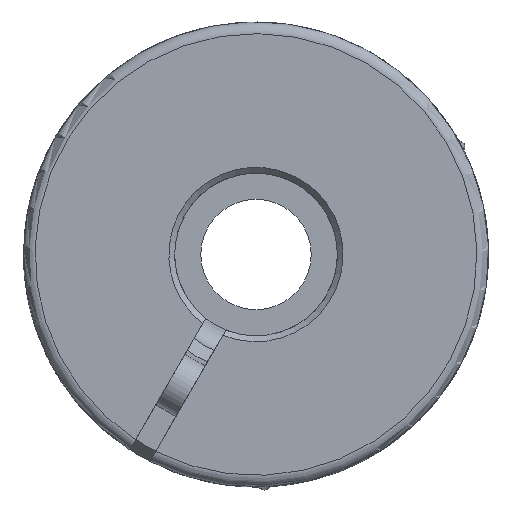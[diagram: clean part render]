
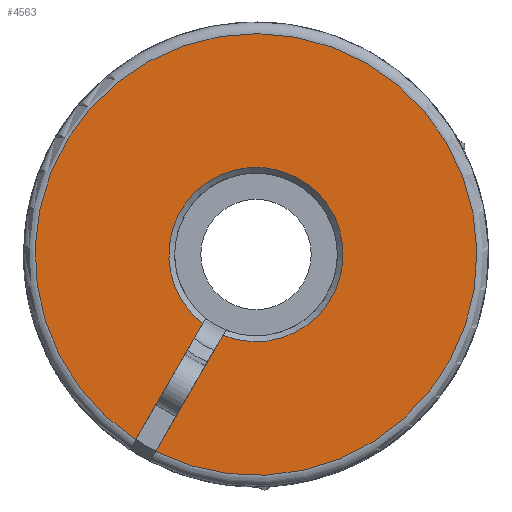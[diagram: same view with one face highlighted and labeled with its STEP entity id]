
A CAD part, left-side view. The second image highlights one B-rep face of the part: STEP entity #4563.
In plain terms, the highlighted planar face has unit normal (-1, 0, 0).
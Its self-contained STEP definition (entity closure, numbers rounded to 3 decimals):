
#54=PLANE('',#4956);
#184=LINE('',#7378,#320);
#187=LINE('',#7396,#323);
#320=VECTOR('',#5800,1000.);
#323=VECTOR('',#5807,1000.);
#586=CIRCLE('',#4893,19.);
#620=CIRCLE('',#4957,7.5);
#1484=ORIENTED_EDGE('',*,*,#2025,.T.);
#1485=ORIENTED_EDGE('',*,*,#1980,.T.);
#1486=ORIENTED_EDGE('',*,*,#2031,.T.);
#1487=ORIENTED_EDGE('',*,*,#2042,.F.);
#1980=EDGE_CURVE('',#2346,#2347,#586,.T.);
#2025=EDGE_CURVE('',#2371,#2346,#184,.T.);
#2031=EDGE_CURVE('',#2347,#2376,#187,.T.);
#2042=EDGE_CURVE('',#2371,#2376,#620,.T.);
#2346=VERTEX_POINT('',#7244);
#2347=VERTEX_POINT('',#7250);
#2371=VERTEX_POINT('',#7379);
#2376=VERTEX_POINT('',#7397);
#2750=EDGE_LOOP('',(#1484,#1485,#1486,#1487));
#2993=FACE_BOUND('',#2750,.T.);
#4563=ADVANCED_FACE('',(#2993),#54,.T.);
#4893=AXIS2_PLACEMENT_3D('',#7251,#5694,#5695);
#4956=AXIS2_PLACEMENT_3D('',#7422,#5832,#5833);
#4957=AXIS2_PLACEMENT_3D('',#7423,#5834,#5835);
#5694=DIRECTION('',(-1.,0.,0.));
#5695=DIRECTION('',(0.,-0.5,0.866));
#5800=DIRECTION('',(0.,0.5,-0.866));
#5807=DIRECTION('',(0.,-0.5,0.866));
#5832=DIRECTION('',(-1.,0.,0.));
#5833=DIRECTION('',(0.,-0.5,0.866));
#5834=DIRECTION('',(-1.,0.,0.));
#5835=DIRECTION('',(0.,-0.5,0.866));
#7244=CARTESIAN_POINT('',(-25.,8.621,-16.932));
#7250=CARTESIAN_POINT('',(-25.,10.353,-15.932));
#7251=CARTESIAN_POINT('',(-25.,0.,0.));
#7378=CARTESIAN_POINT('',(-25.,-4.616,5.995));
#7379=CARTESIAN_POINT('',(-25.,2.85,-6.937));
#7396=CARTESIAN_POINT('',(-25.,-2.884,6.995));
#7397=CARTESIAN_POINT('',(-25.,4.583,-5.937));
#7422=CARTESIAN_POINT('',(-25.,-3.75,6.495));
#7423=CARTESIAN_POINT('',(-25.,0.,0.));
